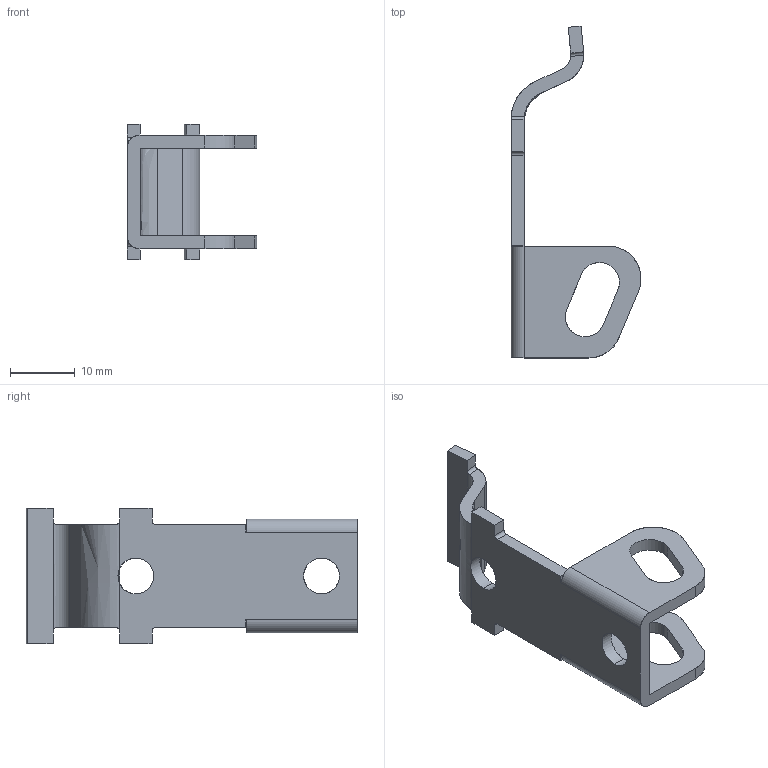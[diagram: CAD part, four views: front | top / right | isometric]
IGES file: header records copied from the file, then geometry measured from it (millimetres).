
Start section: SolidWorks IGES FILE using analytic representation for surfaces
Global section: file name: C:\Documents and Settings\lecoutey\Bureau\GO 24\24.020.00.IGS; native system: SolidWorks 2004 by SolidWorks Corporation; preprocessor: Version 5.3; author: lecoutey; date: 050329.093615; units: millimetre
Bounding box: 20 x 51.09 x 20.8 mm (x, y, z)
Surface area: 3279.9 mm2 (no closed solid volume)
Topology: 0 solids, 0 shells, 97 faces, 881 edges, 851 vertices
Faces by surface type: revolution 58, bspline 39
